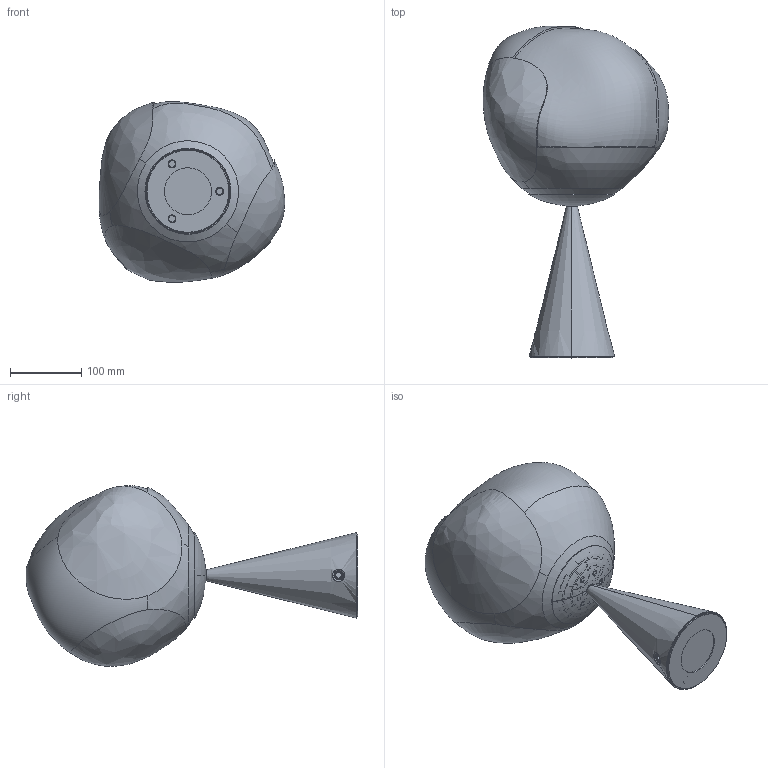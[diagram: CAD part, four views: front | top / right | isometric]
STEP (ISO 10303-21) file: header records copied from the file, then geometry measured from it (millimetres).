
FILE_DESCRIPTION (( 'STEP AP203' ), '1' );
FILE_NAME ('Melt Cone Fat Table LED.STEP', '2023-06-22T14:33:11', ( '' ), ( '' ), 'SwSTEP 2.0', 'SolidWorks 2022', '' );
FILE_SCHEMA (( 'CONFIG_CONTROL_DESIGN' ));
Products named in the file (1): Melt Cone Fat Table LED
Bounding box: 260.6 x 465.5 x 253.6 mm (x, y, z)
Surface area: 559017.7 mm2 (no closed solid volume)
Topology: 0 solids, 7 shells, 658 faces, 1872 edges, 1257 vertices
Faces by surface type: plane 292, cone 179, bspline 112, cylinder 71, torus 4
Entity records: 332744 total; most frequent: CARTESIAN_POINT 319004, ORIENTED_EDGE 3734, EDGE_CURVE 1868, B_SPLINE_CURVE_WITH_KNOTS 1622, DIRECTION 1443, VERTEX_POINT 1257, EDGE_LOOP 740, AXIS2_PLACEMENT_3D 679
